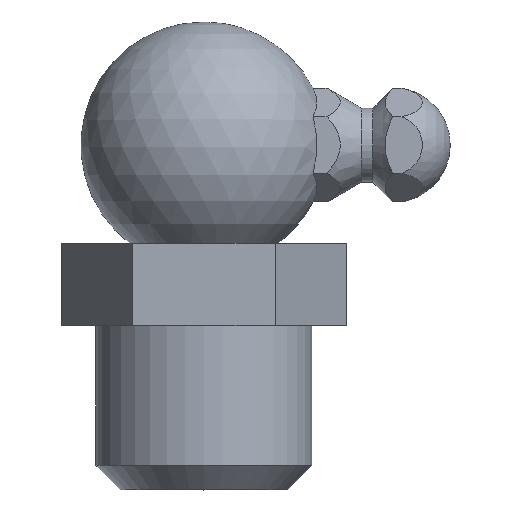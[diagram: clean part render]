
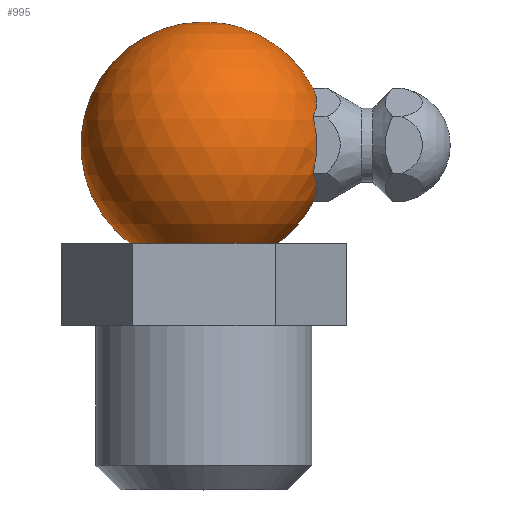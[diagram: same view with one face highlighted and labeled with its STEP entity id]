
A CAD part, top view. The second image highlights one B-rep face of the part: STEP entity #995.
In plain terms, the highlighted spherical face has radius 7.5 mm.
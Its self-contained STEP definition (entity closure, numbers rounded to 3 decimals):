
#132=CARTESIAN_POINT('',(0.,15.,0.));
#133=DIRECTION('',(0.,-1.,0.));
#134=DIRECTION('',(1.,0.,0.));
#135=AXIS2_PLACEMENT_3D('',#132,#133,#134);
#142=CARTESIAN_POINT('',(0.,21.,3.));
#143=DIRECTION('',(0.,0.,1.));
#144=DIRECTION('',(0.968,-0.252,0.));
#145=AXIS2_PLACEMENT_3D('',#142,#143,#144);
#147=CARTESIAN_POINT('',(0.,18.402,1.5));
#148=DIRECTION('',(0.,-0.866,0.5));
#149=DIRECTION('',(0.968,-0.126,-0.218));
#150=AXIS2_PLACEMENT_3D('',#147,#148,#149);
#152=CARTESIAN_POINT('',(0.,23.598,1.5));
#153=DIRECTION('',(0.,0.866,0.5));
#154=DIRECTION('',(0.968,-0.126,0.218));
#155=AXIS2_PLACEMENT_3D('',#152,#153,#154);
#555=CARTESIAN_POINT('',(0.,21.,0.));
#556=DIRECTION('',(0.,0.,1.));
#557=DIRECTION('',(0.887,0.462,0.));
#558=AXIS2_PLACEMENT_3D('',#555,#556,#557);
#560=CARTESIAN_POINT('',(0.,21.,0.));
#561=DIRECTION('',(0.,0.,-1.));
#562=DIRECTION('',(-0.6,-0.8,0.));
#563=AXIS2_PLACEMENT_3D('',#560,#561,#562);
#565=CARTESIAN_POINT('',(0.,21.,0.));
#566=DIRECTION('',(0.,0.,1.));
#567=DIRECTION('',(0.6,-0.8,0.));
#568=AXIS2_PLACEMENT_3D('',#565,#566,#567);
#727=CARTESIAN_POINT('',(4.5,15.,0.));
#728=CARTESIAN_POINT('',(-4.5,15.,0.));
#729=VERTEX_POINT('',#727);
#730=VERTEX_POINT('',#728);
#731=CARTESIAN_POINT('',(0.,28.5,0.));
#732=VERTEX_POINT('',#731);
#733=CARTESIAN_POINT('',(6.652,19.268,3.));
#734=CARTESIAN_POINT('',(6.652,22.732,3.));
#735=VERTEX_POINT('',#733);
#736=VERTEX_POINT('',#734);
#737=CARTESIAN_POINT('',(6.652,17.536,0.));
#738=VERTEX_POINT('',#737);
#739=CARTESIAN_POINT('',(6.652,24.464,0.));
#740=VERTEX_POINT('',#739);
#975=CARTESIAN_POINT('',(0.,21.,0.));
#976=DIRECTION('',(0.,-1.,0.));
#977=DIRECTION('',(-1.,0.,0.));
#978=AXIS2_PLACEMENT_3D('',#975,#976,#977);
#979=SPHERICAL_SURFACE('',#978,7.5);
#981=ORIENTED_EDGE('',*,*,#980,.F.);
#983=ORIENTED_EDGE('',*,*,#982,.F.);
#985=ORIENTED_EDGE('',*,*,#984,.F.);
#986=ORIENTED_EDGE('',*,*,#968,.T.);
#988=ORIENTED_EDGE('',*,*,#987,.T.);
#990=ORIENTED_EDGE('',*,*,#989,.F.);
#992=ORIENTED_EDGE('',*,*,#991,.F.);
#993=EDGE_LOOP('',(#981,#983,#985,#986,#988,#990,#992));
#994=FACE_OUTER_BOUND('',#993,.F.);
#136=CIRCLE('',#135,4.5);
#146=CIRCLE('',#145,6.874);
#151=CIRCLE('',#150,6.874);
#156=CIRCLE('',#155,6.874);
#559=CIRCLE('',#558,7.5);
#564=CIRCLE('',#563,7.5);
#569=CIRCLE('',#568,7.5);
#968=EDGE_CURVE('',#729,#730,#136,.T.);
#980=EDGE_CURVE('',#735,#736,#146,.T.);
#982=EDGE_CURVE('',#738,#735,#151,.T.);
#984=EDGE_CURVE('',#729,#738,#569,.T.);
#987=EDGE_CURVE('',#730,#732,#564,.T.);
#989=EDGE_CURVE('',#740,#732,#559,.T.);
#991=EDGE_CURVE('',#736,#740,#156,.T.);
#995=ADVANCED_FACE('',(#994),#979,.T.);
